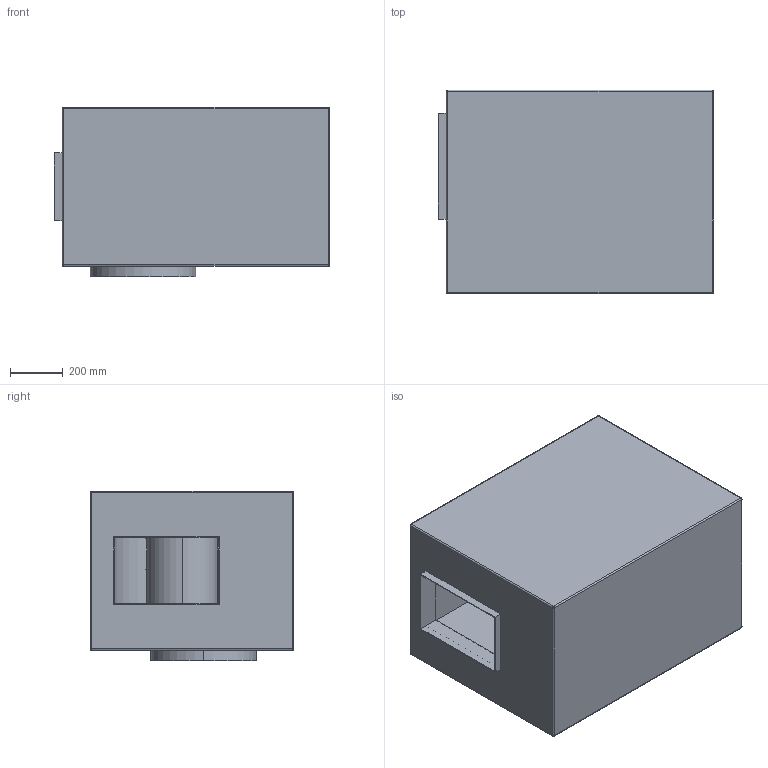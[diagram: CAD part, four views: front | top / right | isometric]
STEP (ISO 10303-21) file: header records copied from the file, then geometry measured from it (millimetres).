
FILE_DESCRIPTION(('STEP AP214'),'1');
FILE_NAME('fan_sptr000120_h.stp','2017-03-31T12:38:04',('TraceParts'),('TraceParts S.A.'),'Spatial InterOp 3D',' ',' ');
FILE_SCHEMA(('automotive_design'));
Length unit declared in the file: millimetre
Products named in the file (1): fan_sptr000120_h
Bounding box: 1048 x 775 x 645 mm (x, y, z)
Volume: 183421017 mm3; surface area: 9124157.5 mm2
Topology: 1 solids, 1 shells, 145 faces, 377 edges, 230 vertices
Faces by surface type: plane 82, cylinder 51, sphere 8, torus 4
Entity records: 5567 total; most frequent: DIRECTION 801, CARTESIAN_POINT 745, ORIENTED_EDGE 738, EDGE_CURVE 369, AXIS2_PLACEMENT_3D 286, VERTEX_POINT 230, LINE 229, VECTOR 229
